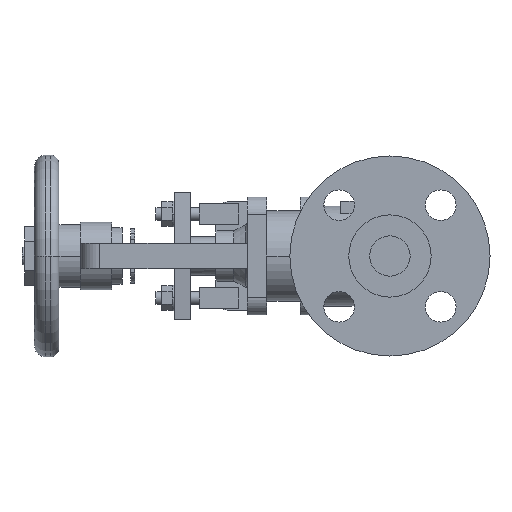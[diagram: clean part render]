
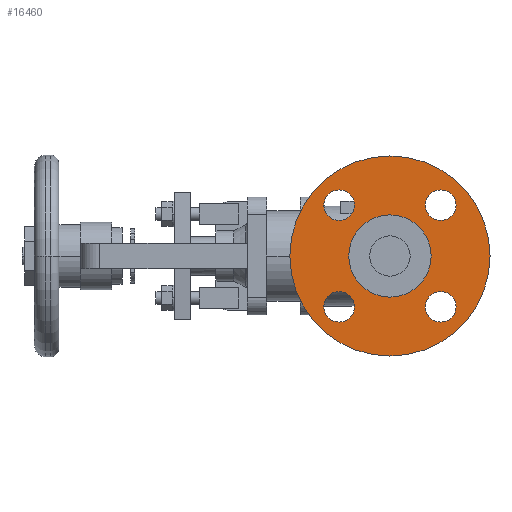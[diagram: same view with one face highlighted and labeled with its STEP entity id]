
A CAD part, left-side view. The second image highlights one B-rep face of the part: STEP entity #16460.
In plain terms, the highlighted planar face has unit normal (-1, 0, 0).
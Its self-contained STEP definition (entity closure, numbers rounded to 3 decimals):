
#4180=CARTESIAN_POINT('',(1.6,0.,-62.));
#4190=VERTEX_POINT('',#4180);
#4220=CARTESIAN_POINT('',(1.6,0.,0.));
#4230=DIRECTION('',(1.,0.,0.));
#4240=DIRECTION('',(0.,0.,-1.));
#4250=AXIS2_PLACEMENT_3D('',#4220,#4230,#4240);
#4260=CIRCLE('',#4250,62.);
#4270=CARTESIAN_POINT('',(1.6,0.,62.));
#4280=VERTEX_POINT('',#4270);
#4290=EDGE_CURVE('',#4280,#4190,#4260,.T.);
#4670=CARTESIAN_POINT('',(1.6,31.466,
-21.966));
#4680=VERTEX_POINT('',#4670);
#4710=CARTESIAN_POINT('',(1.6,31.466,
-31.466));
#4720=DIRECTION('',(-1.,0.,0.));
#4730=DIRECTION('',(0.,0.,-1.));
#4740=AXIS2_PLACEMENT_3D('',#4710,#4720,#4730);
#4750=CIRCLE('',#4740,9.5);
#4760=CARTESIAN_POINT('',(1.6,31.466,
-40.966));
#4770=VERTEX_POINT('',#4760);
#4780=EDGE_CURVE('',#4770,#4680,#4750,.T.);
#5160=CARTESIAN_POINT('',(1.6,-31.466,
-21.966));
#5170=VERTEX_POINT('',#5160);
#5200=CARTESIAN_POINT('',(1.6,-31.466,
-31.466));
#5210=DIRECTION('',(-1.,0.,0.));
#5220=DIRECTION('',(0.,0.,-1.));
#5230=AXIS2_PLACEMENT_3D('',#5200,#5210,#5220);
#5240=CIRCLE('',#5230,9.5);
#5250=CARTESIAN_POINT('',(1.6,-31.466,
-40.966));
#5260=VERTEX_POINT('',#5250);
#5270=EDGE_CURVE('',#5260,#5170,#5240,.T.);
#5650=CARTESIAN_POINT('',(1.6,31.466,
40.966));
#5660=VERTEX_POINT('',#5650);
#5820=CARTESIAN_POINT('',(1.6,31.466,
21.966));
#5830=VERTEX_POINT('',#5820);
#5860=CARTESIAN_POINT('',(1.6,31.466,
31.466));
#5870=DIRECTION('',(-1.,0.,0.));
#5880=DIRECTION('',(0.,0.,-1.));
#5890=AXIS2_PLACEMENT_3D('',#5860,#5870,#5880);
#5900=CIRCLE('',#5890,9.5);
#5910=EDGE_CURVE('',#5660,#5830,#5900,.T.);
#6140=CARTESIAN_POINT('',(1.6,-31.466,
40.966));
#6150=VERTEX_POINT('',#6140);
#6310=CARTESIAN_POINT('',(1.6,-31.466,
21.966));
#6320=VERTEX_POINT('',#6310);
#6350=CARTESIAN_POINT('',(1.6,-31.466,
31.466));
#6360=DIRECTION('',(-1.,0.,0.));
#6370=DIRECTION('',(0.,0.,-1.));
#6380=AXIS2_PLACEMENT_3D('',#6350,#6360,#6370);
#6390=CIRCLE('',#6380,9.5);
#6400=EDGE_CURVE('',#6150,#6320,#6390,.T.);
#6630=CARTESIAN_POINT('',(1.6,25.5,0.));
#6640=VERTEX_POINT('',#6630);
#6670=CARTESIAN_POINT('',(1.6,0.,0.));
#6680=DIRECTION('',(-1.,0.,0.));
#6690=DIRECTION('',(0.,1.,0.));
#6700=AXIS2_PLACEMENT_3D('',#6670,#6680,#6690);
#6710=CIRCLE('',#6700,25.5);
#6720=CARTESIAN_POINT('',(1.6,-25.5,0.));
#6730=VERTEX_POINT('',#6720);
#6740=EDGE_CURVE('',#6730,#6640,#6710,.T.);
#16110=CARTESIAN_POINT('',(1.6,43.75,0.)
);
#16120=DIRECTION('',(1.,0.,0.));
#16130=DIRECTION('',(0.,-1.,0.));
#16140=AXIS2_PLACEMENT_3D('',#16110,#16120,#16130);
#16150=PLANE('',#16140);
#16160=EDGE_CURVE('',#6640,#6730,#6710,.T.);
#16170=ORIENTED_EDGE('',*,*,#16160,.F.);
#16180=ORIENTED_EDGE('',*,*,#6740,.F.);
#16190=EDGE_LOOP('',(#16180,#16170));
#16200=FACE_BOUND('',#16190,.T.);
#16210=ORIENTED_EDGE('',*,*,#4290,.F.);
#16220=EDGE_CURVE('',#4190,#4280,#4260,.T.);
#16230=ORIENTED_EDGE('',*,*,#16220,.F.);
#16240=EDGE_LOOP('',(#16230,#16210));
#16250=FACE_OUTER_BOUND('',#16240,.T.);
#16260=EDGE_CURVE('',#4680,#4770,#4750,.T.);
#16270=ORIENTED_EDGE('',*,*,#16260,.F.);
#16280=ORIENTED_EDGE('',*,*,#4780,.F.);
#16290=EDGE_LOOP('',(#16280,#16270));
#16300=FACE_BOUND('',#16290,.T.);
#16310=EDGE_CURVE('',#5170,#5260,#5240,.T.);
#16320=ORIENTED_EDGE('',*,*,#16310,.F.);
#16330=ORIENTED_EDGE('',*,*,#5270,.F.);
#16340=EDGE_LOOP('',(#16330,#16320));
#16350=FACE_BOUND('',#16340,.T.);
#16360=EDGE_CURVE('',#5830,#5660,#5900,.T.);
#16370=ORIENTED_EDGE('',*,*,#16360,.F.);
#16380=ORIENTED_EDGE('',*,*,#5910,.F.);
#16390=EDGE_LOOP('',(#16380,#16370));
#16400=FACE_BOUND('',#16390,.T.);
#16410=EDGE_CURVE('',#6320,#6150,#6390,.T.);
#16420=ORIENTED_EDGE('',*,*,#16410,.F.);
#16430=ORIENTED_EDGE('',*,*,#6400,.F.);
#16440=EDGE_LOOP('',(#16430,#16420));
#16450=FACE_BOUND('',#16440,.T.);
#16460=ADVANCED_FACE('',(#16200,#16250,#16300,#16350,#16400,#16450),
#16150,.F.);
